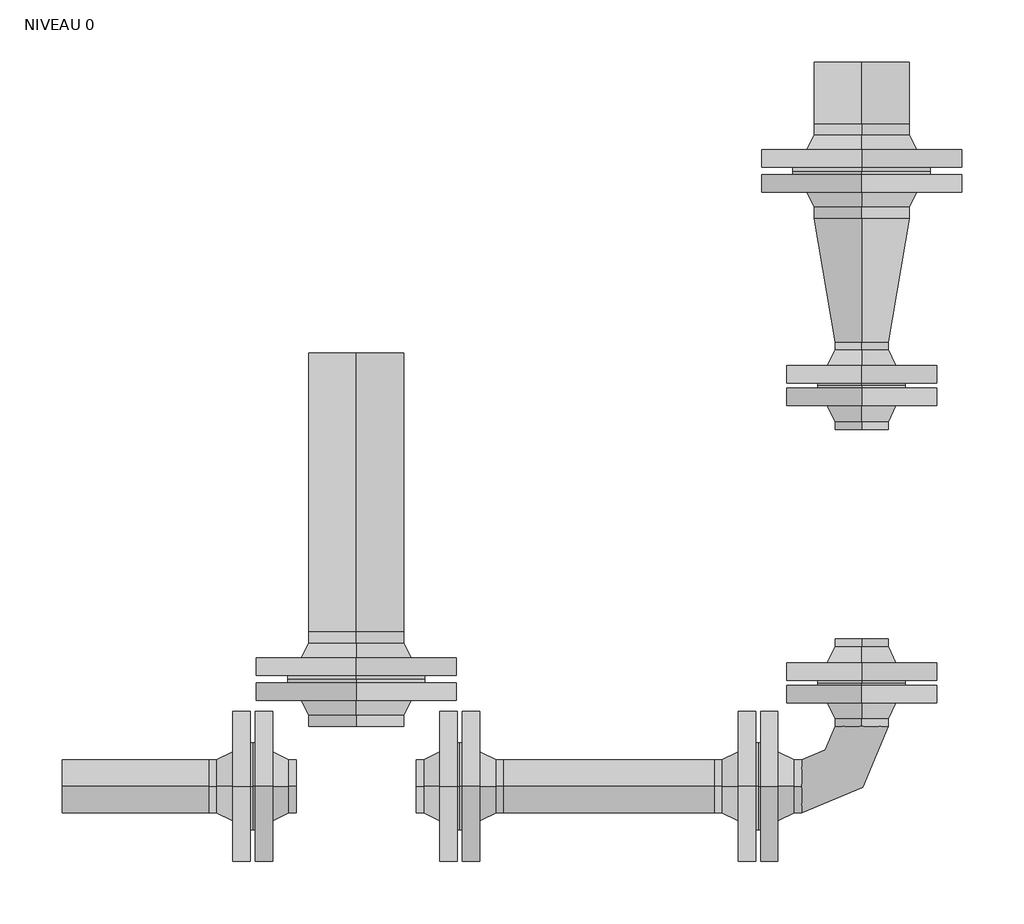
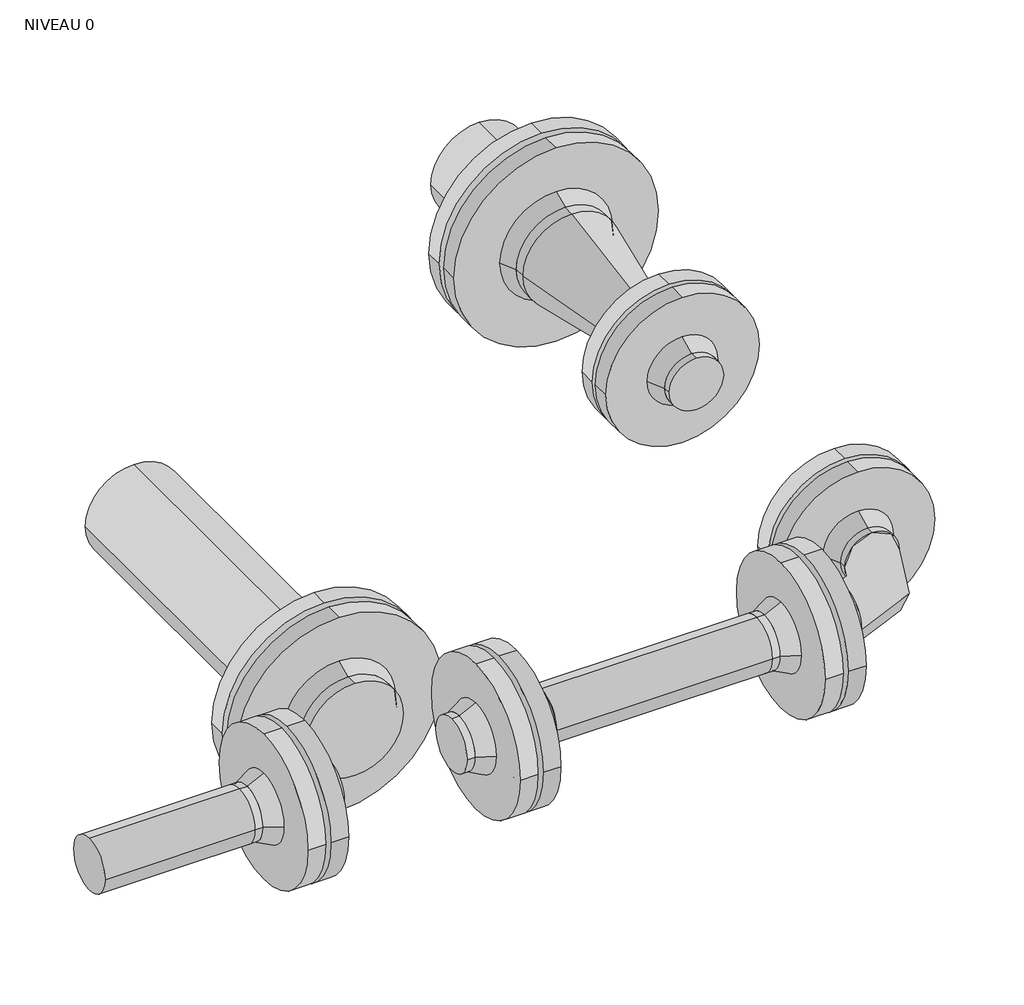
# One storey, incomplete: 9 pipe fittings, 4 pipe segments.
"""IFC4 building model written with IfcOpenShell, lengths in millimetres."""

import ifcopenshell
import ifcopenshell.guid

model = None  # the IFC model being written
_history = None  # IfcOwnerHistory: only IFC2X3 demands one
_inside = {}  # id of a spatial element -> (the spatial element, [elements in it])
_under = {}  # id of a project, library or spatial element -> (it, [spatial elements below it])
_declared = {}  # id of a project -> (the project, [libraries it declares])
_typed = {}  # id of a type object -> (the type object, [elements of that type])
_made_of = {}  # id of a material, layer set ... -> (it, [elements and type objects made of it])


def new_model(schema):
    """Start an empty IFC model of exactly this schema.

    Asked for "IFC4X3", IfcOpenShell would pick the latest addendum, in which some entities
    have other attributes; the version numbers below select the first issue.
    IFC2X3 requires an IfcOwnerHistory on every rooted entity: one is made here for all.
    """
    global model, _history
    if schema == "IFC4X3":
        model = ifcopenshell.file(schema_version=(4, 3, 0, 0))
    else:
        model = ifcopenshell.file(schema=schema)
    _inside.clear()
    _under.clear()
    _declared.clear()
    _typed.clear()
    _made_of.clear()
    _history = None
    if model.schema == "IFC2X3":
        org = make("IfcOrganization", Name="unknown")
        user = make(
            "IfcPersonAndOrganization",
            ThePerson=make("IfcPerson", FamilyName="unknown"),
            TheOrganization=org,
        )
        app = make(
            "IfcApplication",
            ApplicationDeveloper=org,
            Version="unknown",
            ApplicationFullName="unknown",
            ApplicationIdentifier="unknown",
        )
        _history = make(
            "IfcOwnerHistory",
            OwningUser=user,
            OwningApplication=app,
            ChangeAction="ADDED",
            CreationDate=0,
        )
    return model


def make(cls, **values):
    """One entity of the class cls with the attributes given. An attribute that is None is left unset."""
    return model.create_entity(
        cls, **{name: value for name, value in values.items() if value is not None}
    )


def rooted(cls, **values):
    """An entity with a GlobalId (a new one), such as an element, a storey or a relation."""
    return make(cls, GlobalId=ifcopenshell.guid.new(), OwnerHistory=_history, **values)


def si_unit(unit_type, name, prefix=None):
    """IfcSIUnit, for example si_unit("LENGTHUNIT", "METRE", prefix="MILLI")."""
    return make("IfcSIUnit", UnitType=unit_type, Prefix=prefix, Name=name)


def assignment(units):
    """IfcUnitAssignment: the units of a project."""
    return None if units is None else make("IfcUnitAssignment", Units=units)


def point(xyz):
    """IfcCartesianPoint."""
    return None if xyz is None else make("IfcCartesianPoint", Coordinates=xyz)


def direction(xyz):
    """IfcDirection."""
    return None if xyz is None else make("IfcDirection", DirectionRatios=xyz)


def frame(location, z_axis=None, x_axis=None):
    """IfcAxis2Placement3D, a coordinate frame: its origin and axes. An axis left out is left unset."""
    return make(
        "IfcAxis2Placement3D",
        Location=point(location),
        Axis=direction(z_axis),
        RefDirection=direction(x_axis),
    )


def frame_2d(location, x_axis=None):
    """IfcAxis2Placement2D, a coordinate frame in the plane: its origin and x axis."""
    return make(
        "IfcAxis2Placement2D", Location=point(location), RefDirection=direction(x_axis)
    )


def origin():
    """The frame at (0, 0, 0) with its axes left unset."""
    return frame((0.0, 0.0, 0.0))


def origin_2d():
    """The frame at (0, 0) in the plane with its x axis left unset."""
    return frame_2d((0.0, 0.0))


def place(relative_to, where):
    """IfcLocalPlacement: puts the frame where relative to a parent placement (None: the world)."""
    return make(
        "IfcLocalPlacement", PlacementRelTo=relative_to, RelativePlacement=where
    )


def context(
    kind, dimensions, precision=None, world=None, true_north=None, identifier=None
):
    """IfcGeometricRepresentationContext, for example the 3D "Model" context."""
    return make(
        "IfcGeometricRepresentationContext",
        ContextIdentifier=identifier,
        ContextType=kind,
        CoordinateSpaceDimension=dimensions,
        Precision=precision,
        WorldCoordinateSystem=world,
        TrueNorth=true_north,
    )


def project(units=None, contexts=None):
    """IfcProject with its units and contexts."""
    return rooted(
        "IfcProject",
        Name="project",
        RepresentationContexts=contexts,
        UnitsInContext=assignment(units),
    )


def spatial(cls, under=None, at=None, **own):
    """A site, building, storey or space (cls), placed at a placement, below another one or the project."""
    s = rooted(cls, ObjectPlacement=at, **own)
    if under is not None:
        _under.setdefault(under.id(), (under, []))[1].append(s)
    return s


def polyline(points):
    """IfcPolyline through the points."""
    return make("IfcPolyline", Points=[point(p) for p in points])


def circle_curve(where, radius):
    """IfcCircle in the frame where."""
    return make("IfcCircle", Position=where, Radius=radius)


def ellipse_curve(where, semi_axis1, semi_axis2):
    """IfcEllipse in the frame where."""
    return make(
        "IfcEllipse", Position=where, SemiAxis1=semi_axis1, SemiAxis2=semi_axis2
    )


def trimmed(basis, trim1, trim2, sense, master):
    """IfcTrimmedCurve: the piece of a basis curve between two trims."""
    return make(
        "IfcTrimmedCurve",
        BasisCurve=basis,
        Trim1=trim1,
        Trim2=trim2,
        SenseAgreement=sense,
        MasterRepresentation=master,
    )


def segment(curve, same_sense, transition):
    """IfcCompositeCurveSegment."""
    return make(
        "IfcCompositeCurveSegment",
        Transition=transition,
        SameSense=same_sense,
        ParentCurve=curve,
    )


def composite_curve(segments, self_intersect=None):
    """IfcCompositeCurve: segments joined end to end."""
    return make("IfcCompositeCurve", Segments=segments, SelfIntersect=self_intersect)


def outline(outer, holes=None, kind="AREA"):
    """IfcArbitraryClosedProfileDef: a profile drawn as a closed curve; with holes, ...WithVoids."""
    if holes is None:
        return make("IfcArbitraryClosedProfileDef", ProfileType=kind, OuterCurve=outer)
    return make(
        "IfcArbitraryProfileDefWithVoids",
        ProfileType=kind,
        OuterCurve=outer,
        InnerCurves=holes,
    )


def extrude(swept, where, along, depth):
    """IfcExtrudedAreaSolid: the profile swept, set in the frame where, extruded along a direction by depth."""
    return make(
        "IfcExtrudedAreaSolid",
        SweptArea=swept,
        Position=where,
        ExtrudedDirection=direction(along),
        Depth=depth,
    )


def shape(context_of_items, identifier, shape_type, items):
    """IfcShapeRepresentation: the items that make up one representation, for example the "Body"."""
    return make(
        "IfcShapeRepresentation",
        ContextOfItems=context_of_items,
        RepresentationIdentifier=identifier,
        RepresentationType=shape_type,
        Items=items,
    )


def source(mapping_origin, context_of_items, identifier, shape_type, items):
    """IfcRepresentationMap: a shape defined once, which mapped items show again and again."""
    return make(
        "IfcRepresentationMap",
        MappingOrigin=mapping_origin,
        MappedRepresentation=shape(context_of_items, identifier, shape_type, items),
    )


def transform(
    local_origin,
    x_axis=None,
    y_axis=None,
    z_axis=None,
    scale=None,
    scale2=None,
    scale3=None,
    uniform=True,
):
    """IfcCartesianTransformationOperator3D, or its non-uniform kind. x_axis, y_axis, z_axis: its Axis1, 2, 3."""
    if uniform:
        return make(
            "IfcCartesianTransformationOperator3D",
            Axis1=direction(x_axis),
            Axis2=direction(y_axis),
            LocalOrigin=point(local_origin),
            Scale=scale,
            Axis3=direction(z_axis),
        )
    return make(
        "IfcCartesianTransformationOperator3DnonUniform",
        Axis1=direction(x_axis),
        Axis2=direction(y_axis),
        LocalOrigin=point(local_origin),
        Scale=scale,
        Axis3=direction(z_axis),
        Scale2=scale2,
        Scale3=scale3,
    )


def mapped(mapping_source, mapping_target):
    """IfcMappedItem: shows the shape of a source again, moved by a transform."""
    return make(
        "IfcMappedItem", MappingSource=mapping_source, MappingTarget=mapping_target
    )


def made_of(thing, what):
    """Note that an element or type object is made of a material, layer set ...; save() writes the relation."""
    if what is not None:
        _made_of.setdefault(what.id(), (what, []))[1].append(thing)
    return thing


def element(
    cls,
    number,
    at=None,
    inside=None,
    cuts=None,
    type_object=None,
    material=None,
    context=None,
    identifier="Body",
    shape_type=None,
    held_by="IfcProductDefinitionShape",
    body=None,
    shapes=None,
    **own,
):
    """One element of the class cls, such as IfcWall. Its Tag is "e" and its number.

    at: its placement. inside: the storey or other place that contains it. cuts: it is an
    opening in that element (IfcRelVoidsElement). A single representation is given by context,
    identifier, shape_type and body (its items); several are given by shapes. held_by: the class
    of the entity that holds the representations. save() writes the other relations.
    """
    e = rooted(cls, Tag="e%d" % number, ObjectPlacement=at, **own)
    if body is not None:
        shapes = [shape(context, identifier, shape_type, body)]
    if shapes is not None:
        e.Representation = make(held_by, Representations=shapes)
    if inside is not None:
        _inside.setdefault(inside.id(), (inside, []))[1].append(e)
    if cuts is not None:
        rooted(
            "IfcRelVoidsElement", RelatingBuildingElement=cuts, RelatedOpeningElement=e
        )
    if type_object is not None:
        _typed.setdefault(type_object.id(), (type_object, []))[1].append(e)
    return made_of(e, material)


def aggregate(whole, parts):
    """IfcRelAggregates: a whole, such as a stair, and the parts it consists of."""
    return rooted("IfcRelAggregates", RelatingObject=whole, RelatedObjects=parts)


def save(model, path):
    """Write the relations noted so far, then the file.

    IfcRelAggregates (storeys below a building ...), IfcRelContainedInSpatialStructure (elements
    in a storey), IfcRelDefinesByType, IfcRelAssociatesMaterial and IfcRelDeclares: one each for
    every whole, place, type object, material and project.
    """
    for whole, parts in _under.values():
        aggregate(whole, parts)
    for where, things in _inside.values():
        rooted(
            "IfcRelContainedInSpatialStructure",
            RelatedElements=things,
            RelatingStructure=where,
        )
    for kind, things in _typed.values():
        rooted("IfcRelDefinesByType", RelatedObjects=things, RelatingType=kind)
    for what, things in _made_of.values():
        rooted("IfcRelAssociatesMaterial", RelatedObjects=things, RelatingMaterial=what)
    for by, libraries in _declared.values():
        rooted("IfcRelDeclares", RelatingContext=by, RelatedDefinitions=libraries)
    model.write(path)


def plane_surface(at):
    """IfcPlane: the flat surface through the origin of the frame at, square to its z axis."""
    return make("IfcPlane", Position=at)


def revolved_surface(curve, axis_point, axis_direction):
    """IfcSurfaceOfRevolution: the curve turned about the line through axis_point along axis_direction."""
    return make(
        "IfcSurfaceOfRevolution",
        SweptCurve=make("IfcArbitraryOpenProfileDef", ProfileType="CURVE", Curve=curve),
        AxisPosition=make("IfcAxis1Placement", Location=point(axis_point), Axis=direction(axis_direction)),
    )


def advanced_brep(points, edges, surfaces, faces):
    """IfcAdvancedBrep: a solid bounded by faces that lie on surfaces and meet in shared edges.

    An edge is (start, end): straight between two places in points (the first is 0);
    or (start, end, curve); or (start, end, curve, False) where it runs against its curve.
    A face is (place in surfaces, loops), or (place, loops, False) where it looks against
    its surface's normal. A loop lists edges by number (the first is 1), with a minus sign
    where the edge is run from its end to its start. The first loop is the outer one.
    """
    corners = [point(p) for p in points]
    vertices = [make("IfcVertexPoint", VertexGeometry=c) for c in corners]
    made = []
    for start, end, *more in edges:
        made.append(
            make(
                "IfcEdgeCurve",
                EdgeStart=vertices[start],
                EdgeEnd=vertices[end],
                EdgeGeometry=more[0] if more else make("IfcPolyline", Points=[corners[start], corners[end]]),
                SameSense=more[1] if len(more) > 1 else True,
            )
        )
    hull = []
    for where, loops, *sense in faces:
        bounds = []
        for j, loop in enumerate(loops):
            ring = [make("IfcOrientedEdge", EdgeElement=made[abs(k) - 1], Orientation=k > 0) for k in loop]
            bounds.append(
                make(
                    "IfcFaceOuterBound" if j == 0 else "IfcFaceBound",
                    Bound=make("IfcEdgeLoop", EdgeList=ring),
                    Orientation=True,
                )
            )
        hull.append(make("IfcAdvancedFace", Bounds=bounds, FaceSurface=surfaces[where], SameSense=sense[0] if sense else True))
    return make("IfcAdvancedBrep", Outer=make("IfcClosedShell", CfsFaces=hull))


def pipe_fitting_7c5e2426(model_context):
    return source(origin(), model_context, "Body", "AdvancedBrep", [
        advanced_brep(
        [(68.5, 0.0, 21.2), (68.5, -21.2, 0.0), (68.5, 0.0, -21.2), (68.5, 21.2, 0.0), (-30.5, 0.0, 38.05), (-30.5, 38.05, 0.0), (-30.5, 0.0, -38.05), (-30.5, -38.05, 0.0)],
        [
            (0, 1, circle_curve(frame((68.5, 0.0, 0.0), z_axis=(1.0, 0.0, 0.0), x_axis=(0.0, 0.0, 1.0)), 21.2)),
            (1, 2, circle_curve(frame((68.5, 0.0, 0.0), z_axis=(1.0, 0.0, 0.0), x_axis=(0.0, -1.0, 0.0)), 21.2)),
            (2, 3, circle_curve(frame((68.5, 0.0, 0.0), z_axis=(1.0, 0.0, 0.0), x_axis=(0.0, 0.0, -1.0)), 21.2)),
            (3, 0, circle_curve(frame((68.5, 0.0, 0.0), z_axis=(1.0, 0.0, 0.0), x_axis=(0.0, 1.0, 0.0)), 21.2)),
            (4, 5, circle_curve(frame((-30.5, 0.0, 0.0), z_axis=(-1.0, 0.0, 0.0), x_axis=(0.0, 1.0, 0.0)), 38.05)),
            (5, 6, circle_curve(frame((-30.5, 0.0, 0.0), z_axis=(-1.0, 0.0, 0.0), x_axis=(0.0, 0.0, -1.0)), 38.05)),
            (6, 7, circle_curve(frame((-30.5, 0.0, 0.0), z_axis=(-1.0, 0.0, 0.0), x_axis=(0.0, -1.0, 0.0)), 38.05)),
            (7, 4, circle_curve(frame((-30.5, 0.0, 0.0), z_axis=(-1.0, 0.0, 0.0), x_axis=(0.0, 0.0, 1.0)), 38.05)),
            (7, 1),
            (0, 4),
            (6, 2),
            (5, 3),
        ],
        [
            plane_surface(frame((68.5, 0.0, 0.0), z_axis=(1.0, 0.0, 0.0), x_axis=(0.0, -1.0, 0.0))),
            plane_surface(frame((-30.5, 0.0, 0.0), z_axis=(-1.0, 0.0, 0.0), x_axis=(0.0, -1.0, 0.0))),
            revolved_surface(polyline([(68.49999999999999, 0.0, 21.19999999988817), (-30.5, 0.0, 38.05)]), (193.0578635, 0.0, 0.0), (-1.0, 0.0, 0.0)),
            revolved_surface(polyline([(68.49999999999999, -21.19999999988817, 0.0), (-30.5, -38.05, 0.0)]), (193.0578635, 0.0, 0.0), (-1.0, 0.0, 0.0)),
            revolved_surface(polyline([(68.49999999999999, 0.0, -21.19999999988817), (-30.5, 0.0, -38.05)]), (193.0578635, 0.0, 0.0), (-1.0, 0.0, 0.0)),
            revolved_surface(polyline([(68.49999999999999, 21.19999999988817, 0.0), (-30.5, 38.05, 0.0)]), (193.0578635, 0.0, 0.0), (-1.0, 0.0, 0.0)),
        ],
        [
            (0, [[1, 2, 3, 4]]),
            (1, [[5, 6, 7, 8]]),
            (2, [[-8, 9, -1, 10]]),
            (3, [[-7, 11, -2, -9]]),
            (4, [[-6, 12, -3, -11]]),
            (5, [[-5, -10, -4, -12]]),
        ],
    ),
    ])


def coude_acier_3d_b5d1311c(model_context):
    return source(origin(), model_context, "Body", "AdvancedBrep", [
        advanced_brep(
        [(-48.0, -21.2, 0.0), (-48.0, 21.2, 0.0), (21.2, 48.0, 0.0), (-21.2, 48.0, 0.0)],
        [
            (0, 1, circle_curve(frame((-48.0, 0.0, 0.0), z_axis=(-1.0, 0.0, 0.0), x_axis=(0.0, 1.0, 0.0)), 21.2)),
            (1, 0, circle_curve(frame((-48.0, 0.0, 0.0), z_axis=(-1.0, 0.0, 0.0), x_axis=(0.0, 1.0, 0.0)), 21.2)),
            (2, 3, circle_curve(frame((0.0, 48.0, 0.0), z_axis=(0.0, 1.0, 0.0), x_axis=(-1.0, 0.0, 0.0)), 21.2)),
            (3, 2, circle_curve(frame((0.0, 48.0, 0.0), z_axis=(0.0, 1.0, 0.0), x_axis=(-1.0, 0.0, 0.0)), 21.2)),
            (3, 1, circle_curve(frame((-48.0, 48.0, 0.0), z_axis=(0.0, 0.0, -1.0), x_axis=(0.0, -1.0, 0.0)), 26.8)),
            (0, 2, circle_curve(frame((-48.0, 48.0, 0.0), z_axis=(0.0, 0.0, 1.0), x_axis=(0.0, -1.0, 0.0)), 69.2)),
        ],
        [
            plane_surface(frame((-48.0, 0.0, 0.0), z_axis=(-1.0, 0.0, 0.0), x_axis=(0.0, 0.0, 1.0))),
            plane_surface(frame((0.0, 48.0, 0.0), z_axis=(0.0, 1.0, 0.0), x_axis=(0.0, 0.0, 1.0))),
            revolved_surface(trimmed(ellipse_curve(frame((-48.0, 0.0, 0.0), z_axis=(-1.0, 0.0, 0.0), x_axis=(0.0, 1.0, 0.0)), 21.2, 21.2), [point((-48.0, -21.2, 0.0))], [point((-48.0, 21.2, 0.0))], True, "CARTESIAN"), (-48.0, 48.0, 0.0), (0.0, 0.0, 1.0)),
            revolved_surface(trimmed(ellipse_curve(frame((-48.0, 0.0, 0.0), z_axis=(-1.0, 0.0, 0.0), x_axis=(0.0, 1.0, 0.0)), 21.2, 21.2), [point((-48.0, 21.2, 0.0))], [point((-48.0, -21.2, 0.0))], True, "CARTESIAN"), (-48.0, 48.0, 0.0), (0.0, 0.0, 1.0)),
        ],
        [
            (0, [[1, 2]]),
            (1, [[3, 4]]),
            (2, [[5, -1, 6, -4]]),
            (3, [[-6, -2, -5, -3]]),
        ],
    ),
    ])


def standard_daf404b1(model_context):
    return source(origin(), model_context, "Body", "SolidModel", [
        extrude(outline(composite_curve([segment(trimmed(circle_curve(origin_2d(), 21.2), [point((0.0, 21.2))], [point((21.2, 0.0))], False, "CARTESIAN"), True, "CONTINUOUS"), segment(trimmed(circle_curve(origin_2d(), 21.2), [point((21.2, 0.0))], [point((0.0, -21.2))], False, "CARTESIAN"), True, "CONTINUOUS"), segment(trimmed(circle_curve(origin_2d(), 21.2), [point((0.0, -21.2))], [point((-21.2, 0.0))], False, "CARTESIAN"), True, "CONTINUOUS"), segment(trimmed(circle_curve(origin_2d(), 21.2), [point((-21.2, 0.0))], [point((0.0, 21.2))], False, "CARTESIAN"), True, "CONTINUOUS")], self_intersect=False)), frame((64.0, 0.0, 0.0), z_axis=(1.0, 0.0, 0.0), x_axis=(0.0, 1.0, 0.0)), (0.0, 0.0, 1.0), 6.0),
        advanced_brep(
        [(64.0, 0.0, 21.2), (64.0, -21.2, 0.0), (64.0, 0.0, -21.2), (64.0, 21.2, 0.0), (51.0, 0.0, 27.5), (51.0, 27.5, 0.0), (51.0, 0.0, -27.5), (51.0, -27.5, 0.0)],
        [
            (0, 1, circle_curve(frame((64.0, 0.0, 0.0), z_axis=(1.0, 0.0, 0.0), x_axis=(0.0, 0.0, 1.0)), 21.2)),
            (1, 2, circle_curve(frame((64.0, 0.0, 0.0), z_axis=(1.0, 0.0, 0.0), x_axis=(0.0, -1.0, 0.0)), 21.2)),
            (2, 3, circle_curve(frame((64.0, 0.0, 0.0), z_axis=(1.0, 0.0, 0.0), x_axis=(0.0, 0.0, -1.0)), 21.2)),
            (3, 0, circle_curve(frame((64.0, 0.0, 0.0), z_axis=(1.0, 0.0, 0.0), x_axis=(0.0, 1.0, 0.0)), 21.2)),
            (4, 5, circle_curve(frame((51.0, 0.0, 0.0), z_axis=(-1.0, 0.0, 0.0), x_axis=(0.0, 1.0, 0.0)), 27.5)),
            (5, 6, circle_curve(frame((51.0, 0.0, 0.0), z_axis=(-1.0, 0.0, 0.0), x_axis=(0.0, 0.0, -1.0)), 27.5)),
            (6, 7, circle_curve(frame((51.0, 0.0, 0.0), z_axis=(-1.0, 0.0, 0.0), x_axis=(0.0, -1.0, 0.0)), 27.5)),
            (7, 4, circle_curve(frame((51.0, 0.0, 0.0), z_axis=(-1.0, 0.0, 0.0), x_axis=(0.0, 0.0, 1.0)), 27.5)),
            (7, 1),
            (0, 4),
            (6, 2),
            (5, 3),
        ],
        [
            plane_surface(frame((64.0, 0.0, 0.0), z_axis=(1.0, 0.0, 0.0), x_axis=(0.0, -1.0, 0.0))),
            plane_surface(frame((51.0, 0.0, 0.0), z_axis=(-1.0, 0.0, 0.0), x_axis=(0.0, -1.0, 0.0))),
            revolved_surface(polyline([(64.0, 0.0, 21.199999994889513), (51.0, 0.0, 27.5)]), (107.7460317, 0.0, 0.0), (-1.0, 0.0, 0.0)),
            revolved_surface(polyline([(64.0, -21.199999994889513, 0.0), (51.0, -27.5, 0.0)]), (107.7460317, 0.0, 0.0), (-1.0, 0.0, 0.0)),
            revolved_surface(polyline([(64.0, 0.0, -21.199999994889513), (51.0, 0.0, -27.5)]), (107.7460317, 0.0, 0.0), (-1.0, 0.0, 0.0)),
            revolved_surface(polyline([(64.0, 21.199999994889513, 0.0), (51.0, 27.5, 0.0)]), (107.7460317, 0.0, 0.0), (-1.0, 0.0, 0.0)),
        ],
        [
            (0, [[1, 2, 3, 4]]),
            (1, [[5, 6, 7, 8]]),
            (2, [[-8, 9, -1, 10]]),
            (3, [[-7, 11, -2, -9]]),
            (4, [[-6, 12, -3, -11]]),
            (5, [[-5, -10, -4, -12]]),
        ],
    ),
        extrude(outline(composite_curve([segment(trimmed(circle_curve(origin_2d(), 60.0), [point((0.0, 60.0))], [point((60.0, 0.0))], False, "CARTESIAN"), True, "CONTINUOUS"), segment(trimmed(circle_curve(origin_2d(), 60.0), [point((60.0, 0.0))], [point((0.0, -60.0))], False, "CARTESIAN"), True, "CONTINUOUS"), segment(trimmed(circle_curve(origin_2d(), 60.0), [point((0.0, -60.0))], [point((-60.0, 0.0))], False, "CARTESIAN"), True, "CONTINUOUS"), segment(trimmed(circle_curve(origin_2d(), 60.0), [point((-60.0, 0.0))], [point((0.0, 60.0))], False, "CARTESIAN"), True, "CONTINUOUS")], self_intersect=False)), frame((37.0, 0.0, 0.0), z_axis=(1.0, 0.0, 0.0), x_axis=(0.0, 1.0, 0.0)), (0.0, 0.0, 1.0), 14.0),
        extrude(outline(composite_curve([segment(trimmed(circle_curve(origin_2d(), 35.0), [point((0.0, 35.0))], [point((35.0, 0.0))], False, "CARTESIAN"), True, "CONTINUOUS"), segment(trimmed(circle_curve(origin_2d(), 35.0), [point((35.0, 0.0))], [point((0.0, -35.0))], False, "CARTESIAN"), True, "CONTINUOUS"), segment(trimmed(circle_curve(origin_2d(), 35.0), [point((0.0, -35.0))], [point((-35.0, 0.0))], False, "CARTESIAN"), True, "CONTINUOUS"), segment(trimmed(circle_curve(origin_2d(), 35.0), [point((-35.0, 0.0))], [point((0.0, 35.0))], False, "CARTESIAN"), True, "CONTINUOUS")], self_intersect=False)), frame((35.0, 0.0, 0.0), z_axis=(1.0, 0.0, 0.0), x_axis=(0.0, 1.0, 0.0)), (0.0, 0.0, 1.0), 2.0),
        extrude(outline(composite_curve([segment(trimmed(circle_curve(origin_2d(), 21.2), [point((0.0, 21.2))], [point((21.2, 0.0))], False, "CARTESIAN"), True, "CONTINUOUS"), segment(trimmed(circle_curve(origin_2d(), 21.2), [point((21.2, 0.0))], [point((0.0, -21.2))], False, "CARTESIAN"), True, "CONTINUOUS"), segment(trimmed(circle_curve(origin_2d(), 21.2), [point((0.0, -21.2))], [point((-21.2, 0.0))], False, "CARTESIAN"), True, "CONTINUOUS"), segment(trimmed(circle_curve(origin_2d(), 21.2), [point((-21.2, 0.0))], [point((0.0, 21.2))], False, "CARTESIAN"), True, "CONTINUOUS")], self_intersect=False)), frame((0.0, 0.0, 0.0), z_axis=(1.0, 0.0, 0.0), x_axis=(0.0, 1.0, 0.0)), (0.0, 0.0, 1.0), 6.0),
        advanced_brep(
        [(6.0, 0.0, 21.2), (6.0, 21.2, 0.0), (6.0, 0.0, -21.2), (6.0, -21.2, 0.0), (19.0, 0.0, 27.5), (19.0, -27.5, 0.0), (19.0, 0.0, -27.5), (19.0, 27.5, 0.0)],
        [
            (0, 1, circle_curve(frame((6.0, 0.0, 0.0), z_axis=(-1.0, 0.0, 0.0), x_axis=(0.0, 0.0, 1.0)), 21.2)),
            (1, 2, circle_curve(frame((6.0, 0.0, 0.0), z_axis=(-1.0, 0.0, 0.0), x_axis=(0.0, 1.0, 0.0)), 21.2)),
            (2, 3, circle_curve(frame((6.0, 0.0, 0.0), z_axis=(-1.0, 0.0, 0.0), x_axis=(0.0, 0.0, -1.0)), 21.2)),
            (3, 0, circle_curve(frame((6.0, 0.0, 0.0), z_axis=(-1.0, 0.0, 0.0), x_axis=(0.0, -1.0, 0.0)), 21.2)),
            (4, 5, circle_curve(frame((19.0, 0.0, 0.0), z_axis=(1.0, 0.0, 0.0), x_axis=(0.0, -1.0, 0.0)), 27.5)),
            (5, 6, circle_curve(frame((19.0, 0.0, 0.0), z_axis=(1.0, 0.0, 0.0), x_axis=(0.0, 0.0, -1.0)), 27.5)),
            (6, 7, circle_curve(frame((19.0, 0.0, 0.0), z_axis=(1.0, 0.0, 0.0), x_axis=(0.0, 1.0, 0.0)), 27.5)),
            (7, 4, circle_curve(frame((19.0, 0.0, 0.0), z_axis=(1.0, 0.0, 0.0), x_axis=(0.0, 0.0, 1.0)), 27.5)),
            (7, 1),
            (0, 4),
            (6, 2),
            (5, 3),
        ],
        [
            plane_surface(frame((6.0, 0.0, 0.0), z_axis=(-1.0, 0.0, 0.0), x_axis=(0.0, 1.0, 0.0))),
            plane_surface(frame((19.0, 0.0, 0.0), z_axis=(1.0, 0.0, 0.0), x_axis=(0.0, 1.0, 0.0))),
            revolved_surface(polyline([(6.0, 0.0, 21.199999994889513), (19.0, 0.0, 27.5)]), (-37.7460317, 0.0, 0.0), (1.0, 0.0, 0.0)),
            revolved_surface(polyline([(6.0, 21.199999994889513, 0.0), (19.0, 27.5, 0.0)]), (-37.7460317, 0.0, 0.0), (1.0, 0.0, 0.0)),
            revolved_surface(polyline([(6.0, 0.0, -21.199999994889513), (19.0, 0.0, -27.5)]), (-37.7460317, 0.0, 0.0), (1.0, 0.0, 0.0)),
            revolved_surface(polyline([(6.0, -21.199999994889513, 0.0), (19.0, -27.5, 0.0)]), (-37.7460317, 0.0, 0.0), (1.0, 0.0, 0.0)),
        ],
        [
            (0, [[1, 2, 3, 4]]),
            (1, [[5, 6, 7, 8]]),
            (2, [[-8, 9, -1, 10]]),
            (3, [[-7, 11, -2, -9]]),
            (4, [[-6, 12, -3, -11]]),
            (5, [[-5, -10, -4, -12]]),
        ],
    ),
        extrude(outline(composite_curve([segment(trimmed(circle_curve(origin_2d(), 60.0), [point((0.0, 60.0))], [point((60.0, 0.0))], False, "CARTESIAN"), True, "CONTINUOUS"), segment(trimmed(circle_curve(origin_2d(), 60.0), [point((60.0, 0.0))], [point((0.0, -60.0))], False, "CARTESIAN"), True, "CONTINUOUS"), segment(trimmed(circle_curve(origin_2d(), 60.0), [point((0.0, -60.0))], [point((-60.0, 0.0))], False, "CARTESIAN"), True, "CONTINUOUS"), segment(trimmed(circle_curve(origin_2d(), 60.0), [point((-60.0, 0.0))], [point((0.0, 60.0))], False, "CARTESIAN"), True, "CONTINUOUS")], self_intersect=False)), frame((19.0, 0.0, 0.0), z_axis=(1.0, 0.0, 0.0), x_axis=(0.0, 1.0, 0.0)), (0.0, 0.0, 1.0), 14.0),
        extrude(outline(composite_curve([segment(trimmed(circle_curve(origin_2d(), 35.0), [point((0.0, 35.0))], [point((35.0, 0.0))], False, "CARTESIAN"), True, "CONTINUOUS"), segment(trimmed(circle_curve(origin_2d(), 35.0), [point((35.0, 0.0))], [point((0.0, -35.0))], False, "CARTESIAN"), True, "CONTINUOUS"), segment(trimmed(circle_curve(origin_2d(), 35.0), [point((0.0, -35.0))], [point((-35.0, 0.0))], False, "CARTESIAN"), True, "CONTINUOUS"), segment(trimmed(circle_curve(origin_2d(), 35.0), [point((-35.0, 0.0))], [point((0.0, 35.0))], False, "CARTESIAN"), True, "CONTINUOUS")], self_intersect=False)), frame((33.0, 0.0, 0.0), z_axis=(1.0, 0.0, 0.0), x_axis=(0.0, 1.0, 0.0)), (0.0, 0.0, 1.0), 2.0),
    ])


def standard_dc6bdc32(model_context):
    return source(origin(), model_context, "Body", "SolidModel", [
        extrude(outline(composite_curve([segment(trimmed(circle_curve(origin_2d(), 38.05), [point((0.0, 38.05))], [point((38.05, 0.0))], False, "CARTESIAN"), True, "CONTINUOUS"), segment(trimmed(circle_curve(origin_2d(), 38.05), [point((38.05, 0.0))], [point((0.0, -38.05))], False, "CARTESIAN"), True, "CONTINUOUS"), segment(trimmed(circle_curve(origin_2d(), 38.05), [point((0.0, -38.05))], [point((-38.05, 0.0))], False, "CARTESIAN"), True, "CONTINUOUS"), segment(trimmed(circle_curve(origin_2d(), 38.05), [point((-38.05, 0.0))], [point((0.0, 38.05))], False, "CARTESIAN"), True, "CONTINUOUS")], self_intersect=False)), frame((67.0, 0.0, 0.0), z_axis=(1.0, 0.0, 0.0), x_axis=(0.0, 1.0, 0.0)), (0.0, 0.0, 1.0), 9.0),
        advanced_brep(
        [(67.0, 0.0, 38.05), (67.0, -38.05, 0.0), (67.0, 0.0, -38.05), (67.0, 38.05, 0.0), (55.0, 0.0, 44.0), (55.0, 44.0, 0.0), (55.0, 0.0, -44.0), (55.0, -44.0, 0.0)],
        [
            (0, 1, circle_curve(frame((67.0, 0.0, 0.0), z_axis=(1.0, 0.0, 0.0), x_axis=(0.0, 0.0, 1.0)), 38.05)),
            (1, 2, circle_curve(frame((67.0, 0.0, 0.0), z_axis=(1.0, 0.0, 0.0), x_axis=(0.0, -1.0, 0.0)), 38.05)),
            (2, 3, circle_curve(frame((67.0, 0.0, 0.0), z_axis=(1.0, 0.0, 0.0), x_axis=(0.0, 0.0, -1.0)), 38.05)),
            (3, 0, circle_curve(frame((67.0, 0.0, 0.0), z_axis=(1.0, 0.0, 0.0), x_axis=(0.0, 1.0, 0.0)), 38.05)),
            (4, 5, circle_curve(frame((55.0, 0.0, 0.0), z_axis=(-1.0, 0.0, 0.0), x_axis=(0.0, 1.0, 0.0)), 44.0)),
            (5, 6, circle_curve(frame((55.0, 0.0, 0.0), z_axis=(-1.0, 0.0, 0.0), x_axis=(0.0, 0.0, -1.0)), 44.0)),
            (6, 7, circle_curve(frame((55.0, 0.0, 0.0), z_axis=(-1.0, 0.0, 0.0), x_axis=(0.0, -1.0, 0.0)), 44.0)),
            (7, 4, circle_curve(frame((55.0, 0.0, 0.0), z_axis=(-1.0, 0.0, 0.0), x_axis=(0.0, 0.0, 1.0)), 44.0)),
            (7, 1),
            (0, 4),
            (6, 2),
            (5, 3),
        ],
        [
            plane_surface(frame((67.0, 0.0, 0.0), z_axis=(1.0, 0.0, 0.0), x_axis=(0.0, -1.0, 0.0))),
            plane_surface(frame((55.0, 0.0, 0.0), z_axis=(-1.0, 0.0, 0.0), x_axis=(0.0, -1.0, 0.0))),
            revolved_surface(polyline([(67.0, 0.0, 38.05000000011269), (55.0, 0.0, 44.0)]), (143.7394958, 0.0, 0.0), (-1.0, 0.0, 0.0)),
            revolved_surface(polyline([(67.0, -38.05000000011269, 0.0), (55.0, -44.0, 0.0)]), (143.7394958, 0.0, 0.0), (-1.0, 0.0, 0.0)),
            revolved_surface(polyline([(67.0, 0.0, -38.05000000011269), (55.0, 0.0, -44.0)]), (143.7394958, 0.0, 0.0), (-1.0, 0.0, 0.0)),
            revolved_surface(polyline([(67.0, 38.05000000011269, 0.0), (55.0, 44.0, 0.0)]), (143.7394958, 0.0, 0.0), (-1.0, 0.0, 0.0)),
        ],
        [
            (0, [[1, 2, 3, 4]]),
            (1, [[5, 6, 7, 8]]),
            (2, [[-8, 9, -1, 10]]),
            (3, [[-7, 11, -2, -9]]),
            (4, [[-6, 12, -3, -11]]),
            (5, [[-5, -10, -4, -12]]),
        ],
    ),
        extrude(outline(composite_curve([segment(trimmed(circle_curve(origin_2d(), 80.0), [point((0.0, 80.0))], [point((80.0, 0.0))], False, "CARTESIAN"), True, "CONTINUOUS"), segment(trimmed(circle_curve(origin_2d(), 80.0), [point((80.0, 0.0))], [point((0.0, -80.0))], False, "CARTESIAN"), True, "CONTINUOUS"), segment(trimmed(circle_curve(origin_2d(), 80.0), [point((0.0, -80.0))], [point((-80.0, 0.0))], False, "CARTESIAN"), True, "CONTINUOUS"), segment(trimmed(circle_curve(origin_2d(), 80.0), [point((-80.0, 0.0))], [point((0.0, 80.0))], False, "CARTESIAN"), True, "CONTINUOUS")], self_intersect=False)), frame((41.0, 0.0, 0.0), z_axis=(1.0, 0.0, 0.0), x_axis=(0.0, 1.0, 0.0)), (0.0, 0.0, 1.0), 14.0),
        extrude(outline(composite_curve([segment(trimmed(circle_curve(origin_2d(), 55.0), [point((0.0, 55.0))], [point((55.0, 0.0))], False, "CARTESIAN"), True, "CONTINUOUS"), segment(trimmed(circle_curve(origin_2d(), 55.0), [point((55.0, 0.0))], [point((0.0, -55.0))], False, "CARTESIAN"), True, "CONTINUOUS"), segment(trimmed(circle_curve(origin_2d(), 55.0), [point((0.0, -55.0))], [point((-55.0, 0.0))], False, "CARTESIAN"), True, "CONTINUOUS"), segment(trimmed(circle_curve(origin_2d(), 55.0), [point((-55.0, 0.0))], [point((0.0, 55.0))], False, "CARTESIAN"), True, "CONTINUOUS")], self_intersect=False)), frame((38.0, 0.0, 0.0), z_axis=(1.0, 0.0, 0.0), x_axis=(0.0, 1.0, 0.0)), (0.0, 0.0, 1.0), 3.0),
        extrude(outline(composite_curve([segment(trimmed(circle_curve(origin_2d(), 38.05), [point((0.0, 38.05))], [point((38.05, 0.0))], False, "CARTESIAN"), True, "CONTINUOUS"), segment(trimmed(circle_curve(origin_2d(), 38.05), [point((38.05, 0.0))], [point((0.0, -38.05))], False, "CARTESIAN"), True, "CONTINUOUS"), segment(trimmed(circle_curve(origin_2d(), 38.05), [point((0.0, -38.05))], [point((-38.05, 0.0))], False, "CARTESIAN"), True, "CONTINUOUS"), segment(trimmed(circle_curve(origin_2d(), 38.05), [point((-38.05, 0.0))], [point((0.0, 38.05))], False, "CARTESIAN"), True, "CONTINUOUS")], self_intersect=False)), frame((0.0, 0.0, 0.0), z_axis=(1.0, 0.0, 0.0), x_axis=(0.0, 1.0, 0.0)), (0.0, 0.0, 1.0), 9.0),
        advanced_brep(
        [(9.0, 0.0, 38.05), (9.0, 38.05, 0.0), (9.0, 0.0, -38.05), (9.0, -38.05, 0.0), (21.0, 0.0, 44.0), (21.0, -44.0, 0.0), (21.0, 0.0, -44.0), (21.0, 44.0, 0.0)],
        [
            (0, 1, circle_curve(frame((9.0, 0.0, 0.0), z_axis=(-1.0, 0.0, 0.0), x_axis=(0.0, 0.0, 1.0)), 38.05)),
            (1, 2, circle_curve(frame((9.0, 0.0, 0.0), z_axis=(-1.0, 0.0, 0.0), x_axis=(0.0, 1.0, 0.0)), 38.05)),
            (2, 3, circle_curve(frame((9.0, 0.0, 0.0), z_axis=(-1.0, 0.0, 0.0), x_axis=(0.0, 0.0, -1.0)), 38.05)),
            (3, 0, circle_curve(frame((9.0, 0.0, 0.0), z_axis=(-1.0, 0.0, 0.0), x_axis=(0.0, -1.0, 0.0)), 38.05)),
            (4, 5, circle_curve(frame((21.0, 0.0, 0.0), z_axis=(1.0, 0.0, 0.0), x_axis=(0.0, -1.0, 0.0)), 44.0)),
            (5, 6, circle_curve(frame((21.0, 0.0, 0.0), z_axis=(1.0, 0.0, 0.0), x_axis=(0.0, 0.0, -1.0)), 44.0)),
            (6, 7, circle_curve(frame((21.0, 0.0, 0.0), z_axis=(1.0, 0.0, 0.0), x_axis=(0.0, 1.0, 0.0)), 44.0)),
            (7, 4, circle_curve(frame((21.0, 0.0, 0.0), z_axis=(1.0, 0.0, 0.0), x_axis=(0.0, 0.0, 1.0)), 44.0)),
            (7, 1),
            (0, 4),
            (6, 2),
            (5, 3),
        ],
        [
            plane_surface(frame((9.0, 0.0, 0.0), z_axis=(-1.0, 0.0, 0.0), x_axis=(0.0, 1.0, 0.0))),
            plane_surface(frame((21.0, 0.0, 0.0), z_axis=(1.0, 0.0, 0.0), x_axis=(0.0, 1.0, 0.0))),
            revolved_surface(polyline([(9.0, 0.0, 38.05000000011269), (21.0, 0.0, 44.0)]), (-67.7394958, 0.0, 0.0), (1.0, 0.0, 0.0)),
            revolved_surface(polyline([(9.0, 38.05000000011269, 0.0), (21.0, 44.0, 0.0)]), (-67.7394958, 0.0, 0.0), (1.0, 0.0, 0.0)),
            revolved_surface(polyline([(9.0, 0.0, -38.05000000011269), (21.0, 0.0, -44.0)]), (-67.7394958, 0.0, 0.0), (1.0, 0.0, 0.0)),
            revolved_surface(polyline([(9.0, -38.05000000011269, 0.0), (21.0, -44.0, 0.0)]), (-67.7394958, 0.0, 0.0), (1.0, 0.0, 0.0)),
        ],
        [
            (0, [[1, 2, 3, 4]]),
            (1, [[5, 6, 7, 8]]),
            (2, [[-8, 9, -1, 10]]),
            (3, [[-7, 11, -2, -9]]),
            (4, [[-6, 12, -3, -11]]),
            (5, [[-5, -10, -4, -12]]),
        ],
    ),
        extrude(outline(composite_curve([segment(trimmed(circle_curve(origin_2d(), 80.0), [point((0.0, 80.0))], [point((80.0, 0.0))], False, "CARTESIAN"), True, "CONTINUOUS"), segment(trimmed(circle_curve(origin_2d(), 80.0), [point((80.0, 0.0))], [point((0.0, -80.0))], False, "CARTESIAN"), True, "CONTINUOUS"), segment(trimmed(circle_curve(origin_2d(), 80.0), [point((0.0, -80.0))], [point((-80.0, 0.0))], False, "CARTESIAN"), True, "CONTINUOUS"), segment(trimmed(circle_curve(origin_2d(), 80.0), [point((-80.0, 0.0))], [point((0.0, 80.0))], False, "CARTESIAN"), True, "CONTINUOUS")], self_intersect=False)), frame((21.0, 0.0, 0.0), z_axis=(1.0, 0.0, 0.0), x_axis=(0.0, 1.0, 0.0)), (0.0, 0.0, 1.0), 14.0),
        extrude(outline(composite_curve([segment(trimmed(circle_curve(origin_2d(), 55.0), [point((0.0, 55.0))], [point((55.0, 0.0))], False, "CARTESIAN"), True, "CONTINUOUS"), segment(trimmed(circle_curve(origin_2d(), 55.0), [point((55.0, 0.0))], [point((0.0, -55.0))], False, "CARTESIAN"), True, "CONTINUOUS"), segment(trimmed(circle_curve(origin_2d(), 55.0), [point((0.0, -55.0))], [point((-55.0, 0.0))], False, "CARTESIAN"), True, "CONTINUOUS"), segment(trimmed(circle_curve(origin_2d(), 55.0), [point((-55.0, 0.0))], [point((0.0, 55.0))], False, "CARTESIAN"), True, "CONTINUOUS")], self_intersect=False)), frame((35.0, 0.0, 0.0), z_axis=(1.0, 0.0, 0.0), x_axis=(0.0, 1.0, 0.0)), (0.0, 0.0, 1.0), 3.0),
    ])


model = new_model("IFC4")

# Units and contexts
model_context = context("Model", 3, world=origin())
ifc_project = project(units=[si_unit("LENGTHUNIT", "METRE", prefix="MILLI")], contexts=[model_context])

# Site, building, storey
site = spatial("IfcSite", under=ifc_project)
building = spatial("IfcBuilding", under=site)
storey = spatial("IfcBuildingStorey", under=building, Name="NIVEAU 0", Elevation=0.0)

# Pipe fittings
placement = place(None, origin())
pipe_fitting_shape = pipe_fitting_7c5e2426(model_context)
element("IfcPipeFitting", 1, ObjectType="Réduction Acier : Longueur = x3", at=placement, inside=storey, context=model_context, shape_type="MappedRepresentation", body=[
    mapped(pipe_fitting_shape, transform((-1810.7474358, -2514.8216299, 128.0), x_axis=(0.0, -1.0, 0.0), y_axis=(1.0, 0.0, 0.0), z_axis=(0.0, 0.0, 1.0))),
])
coude_acier_3d_shape = coude_acier_3d_b5d1311c(model_context)
element("IfcPipeFitting", 2, ObjectType="Coude Acier 3D : Courbure = 3D", at=placement, inside=storey, context=model_context, shape_type="MappedRepresentation", body=[
    mapped(coude_acier_3d_shape, transform((-1810.7474358, -2939.3216299, 128.0), x_axis=(1.0, 0.0, 0.0), y_axis=(0.0, 1.0, 0.0), z_axis=(0.0, 0.0, 1.0))),
])
standard_shape = standard_daf404b1(model_context)
element("IfcPipeFitting", 3, ObjectType="Brides Double PN6 Collerette : Standard", at=placement, inside=storey, context=model_context, shape_type="MappedRepresentation", body=[
    mapped(standard_shape, transform((-1810.7474358, -2891.3216299, 128.0), x_axis=(0.0, 1.0, 0.0), y_axis=(-1.0, 0.0, 0.0), z_axis=(0.0, 0.0, 1.0))),
])
element("IfcPipeFitting", 4, ObjectType="Brides Double PN6 Collerette : Standard", at=placement, inside=storey, context=model_context, shape_type="MappedRepresentation", body=[
    mapped(standard_shape, transform((-2263.4640947, -2939.3216299, 128.0), x_axis=(-1.0, 0.0, 0.0), y_axis=(0.0, 1.0, 0.0), z_axis=(0.0, 0.0, -1.0))),
])
element("IfcPipeFitting", 5, ObjectType="Brides Double PN6 Collerette : Standard", at=placement, inside=storey, context=model_context, shape_type="MappedRepresentation", body=[
    mapped(standard_shape, transform((-1858.7474358, -2939.3216299, 128.0), x_axis=(-1.0, 0.0, 0.0), y_axis=(0.0, -1.0, 0.0), z_axis=(0.0, 0.0, 1.0))),
])
element("IfcPipeFitting", 6, ObjectType="Brides Double PN6 Collerette : Standard", at=placement, inside=storey, context=model_context, shape_type="MappedRepresentation", body=[
    mapped(standard_shape, transform((-2167.4640947, -2939.3216299, 128.0), x_axis=(1.0, 0.0, 0.0), y_axis=(0.0, -1.0, 0.0), z_axis=(0.0, 0.0, -1.0))),
])
element("IfcPipeFitting", 7, ObjectType="Brides Double PN6 Collerette : Standard", at=placement, inside=storey, context=model_context, shape_type="MappedRepresentation", body=[
    mapped(standard_shape, transform((-1810.7474358, -2583.3216299, 128.0), x_axis=(0.0, -1.0, 0.0), y_axis=(-1.0, 0.0, 0.0), z_axis=(0.0, 0.0, -1.0))),
])
standard_2_shape = standard_dc6bdc32(model_context)
element("IfcPipeFitting", 8, ObjectType="Brides Double PN6 Collerette : Standard", at=placement, inside=storey, context=model_context, shape_type="MappedRepresentation", body=[
    mapped(standard_2_shape, transform((-2215.4640947, -2891.3216299, 128.0), x_axis=(0.0, 1.0, 0.0), y_axis=(1.0, 0.0, 0.0), z_axis=(0.0, 0.0, -1.0))),
])
element("IfcPipeFitting", 9, ObjectType="Brides Double PN6 Collerette : Standard", at=placement, inside=storey, context=model_context, shape_type="MappedRepresentation", body=[
    mapped(standard_2_shape, transform((-1810.7474358, -2484.3216299, 128.0), x_axis=(0.0, 1.0, 0.0), y_axis=(-1.0, 0.0, 0.0), z_axis=(0.0, 0.0, 1.0))),
])

# Pipe segments
element("IfcPipeSegment", 10, ObjectType="Acier T3 avec té et  coude 3D assemblé Bride PN6", at=placement, inside=storey, context=model_context, shape_type="SweptSolid", body=[
    extrude(outline(composite_curve([segment(trimmed(circle_curve(frame_2d((-2939.3216299, 128.0)), 21.2), [point((-2960.5216299, 128.0))], [point((-2939.3216299, 149.2))], False, "CARTESIAN"), True, "CONTINUOUS"), segment(trimmed(circle_curve(frame_2d((-2939.3216299, 128.0)), 21.2), [point((-2939.3216299, 149.2))], [point((-2918.1216299, 128.0))], False, "CARTESIAN"), True, "CONTINUOUS"), segment(trimmed(circle_curve(frame_2d((-2939.3216299, 128.0)), 21.2), [point((-2918.1216299, 128.0))], [point((-2939.3216299, 106.8))], False, "CARTESIAN"), True, "CONTINUOUS"), segment(trimmed(circle_curve(frame_2d((-2939.3216299, 128.0)), 21.2), [point((-2939.3216299, 106.8))], [point((-2960.5216299, 128.0))], False, "CARTESIAN"), True, "CONTINUOUS")], self_intersect=False)), frame((-2097.4640947, 0.0, 0.0), z_axis=(1.0, 0.0, 0.0), x_axis=(0.0, 1.0, 0.0)), (0.0, 0.0, 1.0), 168.7166589),
])
element("IfcPipeSegment", 11, ObjectType="Acier T3 avec té et  coude 3D assemblé Bride PN6", at=placement, inside=storey, context=model_context, shape_type="SweptSolid", body=[
    extrude(outline(composite_curve([segment(trimmed(circle_curve(frame_2d((128.0, -1810.7474358)), 38.05), [point((128.0, -1772.6974358))], [point((166.05, -1810.7474358))], False, "CARTESIAN"), True, "CONTINUOUS"), segment(trimmed(circle_curve(frame_2d((128.0, -1810.7474358)), 38.05), [point((166.05, -1810.7474358))], [point((128.0, -1848.7974358))], False, "CARTESIAN"), True, "CONTINUOUS"), segment(trimmed(circle_curve(frame_2d((128.0, -1810.7474358)), 38.05), [point((128.0, -1848.7974358))], [point((89.95, -1810.7474358))], False, "CARTESIAN"), True, "CONTINUOUS"), segment(trimmed(circle_curve(frame_2d((128.0, -1810.7474358)), 38.05), [point((89.95, -1810.7474358))], [point((128.0, -1772.6974358))], False, "CARTESIAN"), True, "CONTINUOUS")], self_intersect=False)), frame((0.0, -2408.3216299, 0.0), z_axis=(0.0, 1.0, 0.0), x_axis=(0.0, 0.0, 1.0)), (0.0, 0.0, 1.0), 49.0),
])
element("IfcPipeSegment", 12, ObjectType="Acier T3 avec té et  coude 3D assemblé Bride PN6", at=placement, inside=storey, context=model_context, shape_type="SweptSolid", body=[
    extrude(outline(composite_curve([segment(trimmed(circle_curve(frame_2d((128.0, -2215.4640947)), 38.05), [point((128.0, -2177.4140947))], [point((166.05, -2215.4640947))], False, "CARTESIAN"), True, "CONTINUOUS"), segment(trimmed(circle_curve(frame_2d((128.0, -2215.4640947)), 38.05), [point((166.05, -2215.4640947))], [point((128.0, -2253.5140947))], False, "CARTESIAN"), True, "CONTINUOUS"), segment(trimmed(circle_curve(frame_2d((128.0, -2215.4640947)), 38.05), [point((128.0, -2253.5140947))], [point((89.95, -2215.4640947))], False, "CARTESIAN"), True, "CONTINUOUS"), segment(trimmed(circle_curve(frame_2d((128.0, -2215.4640947)), 38.05), [point((89.95, -2215.4640947))], [point((128.0, -2177.4140947))], False, "CARTESIAN"), True, "CONTINUOUS")], self_intersect=False)), frame((0.0, -2815.3216299, 0.0), z_axis=(0.0, 1.0, 0.0), x_axis=(0.0, 0.0, 1.0)), (0.0, 0.0, 1.0), 223.0429281),
])
element("IfcPipeSegment", 13, ObjectType="Acier T3 avec té et  coude 3D assemblé Bride PN6", at=placement, inside=storey, context=model_context, shape_type="SweptSolid", body=[
    extrude(outline(composite_curve([segment(trimmed(circle_curve(frame_2d((-2939.3216299, 128.0)), 21.2), [point((-2960.5216299, 128.0))], [point((-2939.3216299, 149.2))], False, "CARTESIAN"), True, "CONTINUOUS"), segment(trimmed(circle_curve(frame_2d((-2939.3216299, 128.0)), 21.2), [point((-2939.3216299, 149.2))], [point((-2918.1216299, 128.0))], False, "CARTESIAN"), True, "CONTINUOUS"), segment(trimmed(circle_curve(frame_2d((-2939.3216299, 128.0)), 21.2), [point((-2918.1216299, 128.0))], [point((-2939.3216299, 106.8))], False, "CARTESIAN"), True, "CONTINUOUS"), segment(trimmed(circle_curve(frame_2d((-2939.3216299, 128.0)), 21.2), [point((-2939.3216299, 106.8))], [point((-2960.5216299, 128.0))], False, "CARTESIAN"), True, "CONTINUOUS")], self_intersect=False)), frame((-2450.7474358, 0.0, 0.0), z_axis=(1.0, 0.0, 0.0), x_axis=(0.0, 1.0, 0.0)), (0.0, 0.0, 1.0), 117.2833411),
])

save(model, "model.ifc")
